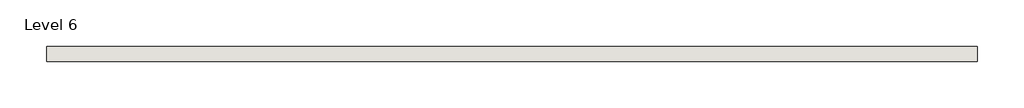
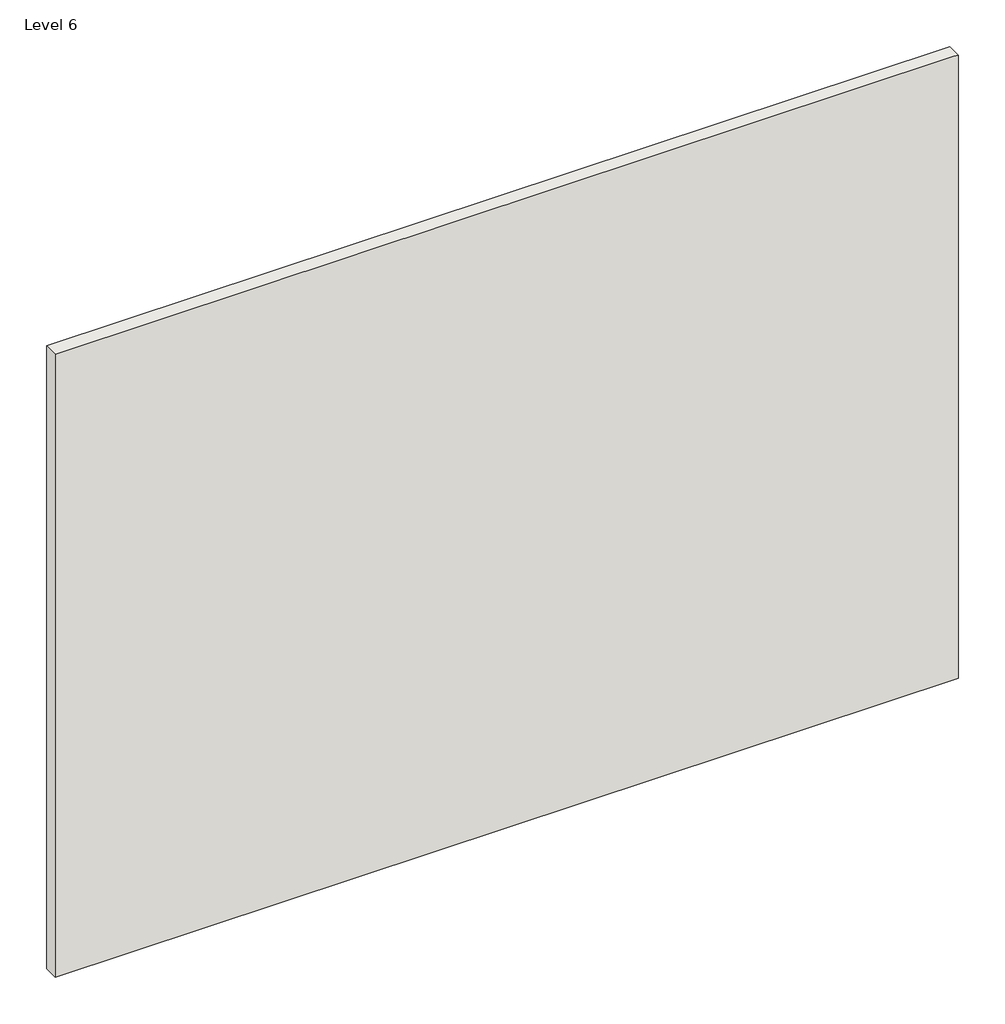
# One storey: 1 wall.
"""IFC4 building model written with IfcOpenShell, lengths in millimetres."""

from ifc_helpers import new_model, si_unit, origin, place, context, project, spatial, faceted_brep, element, save

model = new_model("IFC4")

# Units and contexts
model_context = context("Model", 3, world=origin())
ifc_project = project(units=[si_unit("LENGTHUNIT", "METRE", prefix="MILLI")], contexts=[model_context])

# Site, building, storey
site = spatial("IfcSite", under=ifc_project)
building = spatial("IfcBuilding", under=site)
storey = spatial("IfcBuildingStorey", under=building, Name="Level 6", Elevation=20000.0)

# Wall
placement = place(None, origin())
element("IfcWall", 1, ObjectType="BZ1_fnsh_white stucoo_5cm", at=placement, inside=storey, context=model_context, shape_type="Brep", body=[
    faceted_brep([(2939.4333411, -5700.9799478, 18770.3886675), (2924.4333411, -5700.9799478, 18770.3886675), (-100.2322612, -5700.9799478, 18770.3886675), (-115.5666589, -5700.9799478, 18770.3886675), (-115.5666589, -5700.9799478, 21000.0), (2924.4333411, -5700.9799478, 21000.0), (2939.4333411, -5700.9799478, 21000.0), (2939.4333411, -5750.9799478, 18770.3886675), (2939.4333411, -5750.9799478, 21000.0), (2924.4333411, -5750.9799478, 21000.0), (-115.5666589, -5750.9799478, 21000.0), (-115.5666589, -5750.9799478, 18770.3886675)], [[[0, 1, 2, 3, 4, 5, 6]], [[7, 8, 9, 10, 11]], [[3, 2, 1, 0, 7, 11]], [[4, 3, 11, 10]], [[6, 5, 4, 10, 9, 8]], [[0, 6, 8, 7]]]),
])

save(model, "model.ifc")
